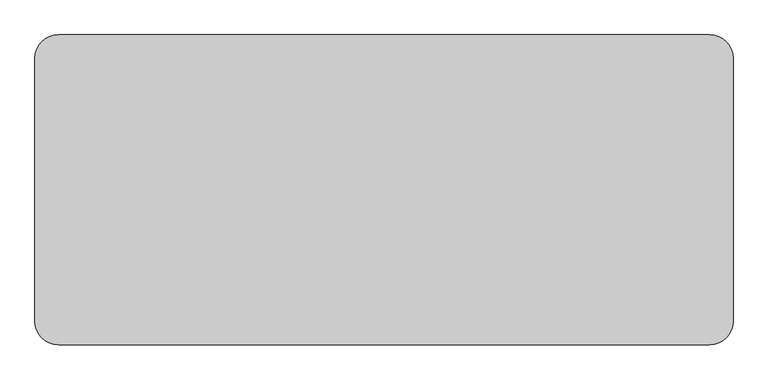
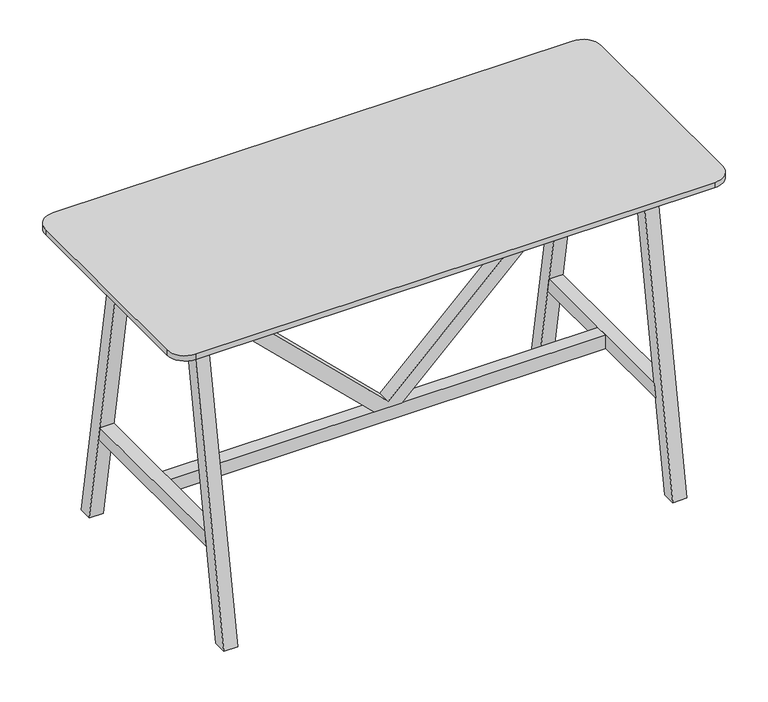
"""IFC4 building model written with IfcOpenShell, lengths in millimetres: furniture geometry, BDG_BossDesign_Tbls_AgentTables4Legs : AGE-HT-1800-800-3D."""

from ifc_helpers import new_model, si_unit, point, frame, frame_2d, origin, place, context, project, spatial, polyline, circle_curve, trimmed, segment, composite_curve, outline, extrude, source, transform, mapped, element, save


def furniture_c8895cdd(model_context):
    return source(origin(), model_context, "Body", "SweptSolid", [
        extrude(outline(polyline([(1029.0, -705.0), (985.6193848, -705.0), (345.0, -44.0212994), (345.0, 44.0212994), (985.6193848, 705.0), (1029.0, 705.0), (1029.0, 685.1023991), (364.9999695, 0.0), (1029.0, -685.1023991), (1029.0, -705.0)])), frame((0.0, -22.5000305, 0.0), z_axis=(0.0, 1.0, 0.0), x_axis=(0.0, 0.0, 1.0)), (0.0, 0.0, 1.0), 45.000061),
        extrude(outline(polyline([(-294.7139143, 345.0), (294.7139143, 345.0), (302.5773161, 300.0), (-302.5773161, 300.0), (-294.7139143, 345.0)])), frame((705.0, 0.0, 0.0), z_axis=(1.0, 0.0, 0.0), x_axis=(0.0, 1.0, 0.0)), (0.0, 0.0, 1.0), 45.0),
        extrude(outline(polyline([(400.0, 0.0), (354.9999949, 0.0), (185.5, 970.0), (230.5000051, 970.0), (400.0, 0.0)])), frame((-750.0, 0.0, 0.0), z_axis=(1.0, 0.0, 0.0), x_axis=(0.0, 1.0, 0.0)), (0.0, 0.0, 1.0), 45.0),
        extrude(outline(polyline([(-400.0, 0.0), (-230.5000051, 970.0), (-185.5, 970.0), (-354.9999949, 0.0), (-400.0, 0.0)])), frame((-750.0, 0.0, 0.0), z_axis=(1.0, 0.0, 0.0), x_axis=(0.0, 1.0, 0.0)), (0.0, 0.0, 1.0), 45.0),
        extrude(outline(polyline([(-179.5, 1032.0), (179.5, 1032.0), (197.9691272, 960.0), (-197.9691272, 960.0), (-179.5, 1032.0)])), frame((288.0, 0.0, 0.0), z_axis=(1.0, 0.0, 0.0), x_axis=(0.0, 1.0, 0.0)), (0.0, 0.0, 1.0), 24.0),
        extrude(outline(polyline([(-294.7139143, 345.0), (294.7139143, 345.0), (302.5773161, 300.0), (-302.5773161, 300.0), (-294.7139143, 345.0)])), frame((-750.0, 0.0, 0.0), z_axis=(1.0, 0.0, 0.0), x_axis=(0.0, 1.0, 0.0)), (0.0, 0.0, 1.0), 45.0),
        extrude(outline(polyline([(-179.5, 1032.0), (179.5, 1032.0), (197.9691272, 960.0), (-197.9691272, 960.0), (-179.5, 1032.0)])), frame((-312.0, 0.0, 0.0), z_axis=(1.0, 0.0, 0.0), x_axis=(0.0, 1.0, 0.0)), (0.0, 0.0, 1.0), 24.0),
        extrude(outline(polyline([(-226.6006165, 944.973938), (-204.2770691, 1032.0), (-179.5, 1032.0), (-201.8235474, 944.973938), (-226.6006165, 944.973938)])), frame((-705.0, 0.0, 0.0), z_axis=(1.0, 0.0, 0.0), x_axis=(0.0, 1.0, 0.0)), (0.0, 0.0, 1.0), 1410.0),
        extrude(outline(polyline([(226.6006165, 944.973938), (201.8235474, 944.973938), (179.5, 1032.0), (204.2770691, 1032.0), (226.6006165, 944.973938)])), frame((-705.0, 0.0, 0.0), z_axis=(1.0, 0.0, 0.0), x_axis=(0.0, 1.0, 0.0)), (0.0, 0.0, 1.0), 1410.0),
        extrude(outline(polyline([(399.7999878, 0.0), (354.7999827, 0.0), (185.5, 970.0), (230.5000051, 970.0), (399.7999878, 0.0)])), frame((705.0, 0.0, 0.0), z_axis=(1.0, 0.0, 0.0), x_axis=(0.0, 1.0, 0.0)), (0.0, 0.0, 1.0), 45.0),
        extrude(outline(polyline([(-399.7999878, 0.0), (-230.5000051, 970.0), (-185.5, 970.0), (-354.7999827, 0.0), (-399.7999878, 0.0)])), frame((705.0, 0.0, 0.0), z_axis=(1.0, 0.0, 0.0), x_axis=(0.0, 1.0, 0.0)), (0.0, 0.0, 1.0), 45.0),
        extrude(outline(polyline([(705.0, 22.5000305), (705.0, -22.5000305), (-705.0, -22.5000305), (-705.0, 22.5000305), (705.0, 22.5000305)])), frame((0.0, 0.0, 300.0), z_axis=(0.0, 0.0, 1.0), x_axis=(1.0, 0.0, 0.0)), (0.0, 0.0, 1.0), 45.0),
        extrude(outline(composite_curve([segment(trimmed(circle_curve(frame_2d((840.0, 340.0)), 60.0), [point((840.0, 400.0))], [point((900.0, 340.0))], False, "CARTESIAN"), True, "CONTINUOUS"), segment(polyline([(900.0, 340.0), (900.0, -340.0)]), True, "CONTINUOUS"), segment(trimmed(circle_curve(frame_2d((840.0, -340.0)), 60.0), [point((900.0, -340.0))], [point((840.0, -400.0))], False, "CARTESIAN"), True, "CONTINUOUS"), segment(polyline([(840.0, -400.0), (-840.0, -400.0)]), True, "CONTINUOUS"), segment(trimmed(circle_curve(frame_2d((-840.0, -340.0)), 60.0), [point((-840.0, -400.0))], [point((-900.0, -340.0))], False, "CARTESIAN"), True, "CONTINUOUS"), segment(polyline([(-900.0, -340.0), (-900.0, 340.0)]), True, "CONTINUOUS"), segment(trimmed(circle_curve(frame_2d((-840.0, 340.0)), 60.0), [point((-900.0, 340.0))], [point((-840.0, 400.0))], False, "CARTESIAN"), True, "CONTINUOUS"), segment(polyline([(-840.0, 400.0), (840.0, 400.0)]), True, "CONTINUOUS")], self_intersect=False)), frame((0.0, 0.0, 1032.0), z_axis=(0.0, 0.0, 1.0), x_axis=(1.0, 0.0, 0.0)), (0.0, 0.0, 1.0), 18.0),
    ])


if __name__ == "__main__":
    model = new_model("IFC4")
    model_context = context("Model", 3, world=origin())
    ifc_project = project(units=[si_unit("LENGTHUNIT", "METRE", prefix="MILLI")], contexts=[model_context])
    site = spatial("IfcSite", under=ifc_project)
    building = spatial("IfcBuilding", under=site)
    placement = place(None, origin())
    furniture_shape = furniture_c8895cdd(model_context)
    element("IfcFurniture", 1, ObjectType="BDG_BossDesign_Tbls_AgentTables4Legs : AGE-HT-1800-800-3D", at=placement, inside=building, context=model_context, shape_type="MappedRepresentation", body=[
        mapped(furniture_shape, transform((0.0, 0.0, 0.0), x_axis=(1.0, 0.0, 0.0), y_axis=(0.0, 1.0, 0.0), z_axis=(0.0, 0.0, 1.0))),
    ])
    save(model, "model.ifc")
